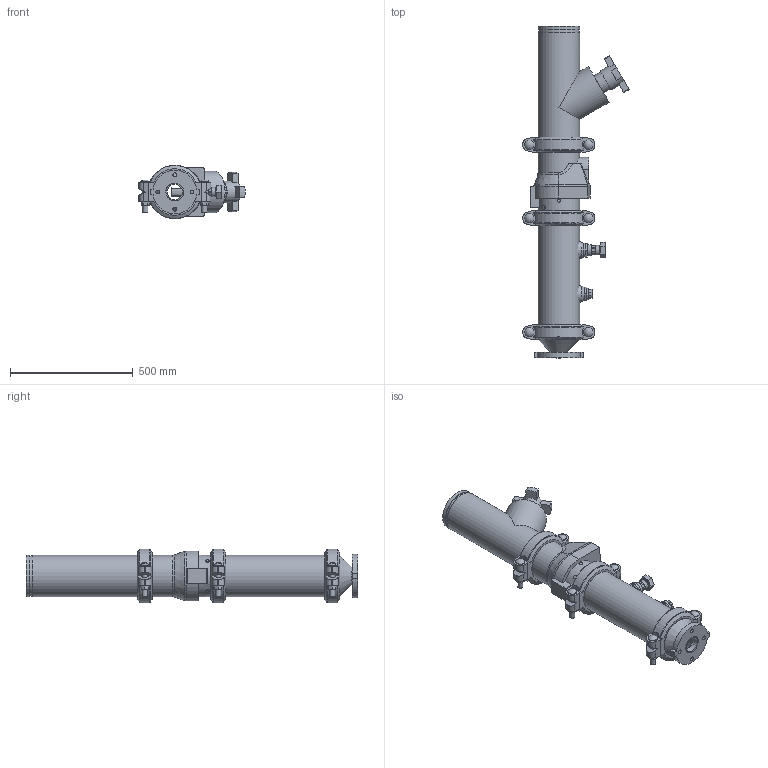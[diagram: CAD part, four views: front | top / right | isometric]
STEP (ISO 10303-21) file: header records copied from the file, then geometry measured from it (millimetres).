
FILE_DESCRIPTION(/* description */ ('VIC DVI PUMP DROP VERT S/383 (OGSxFLG) (S/924-1.25)','CAx-IF Rec.Pracs.---Representation and Presentation of Product Manufacturing Information (PMI)---4.0---2014-10-13'),/* implementation_level */ '2;1');
FILE_NAME(/* name */ 'C:\Users\Public\Documents\Victaulic.Temp\A849\Victaulic_IPS_Vertical DVI_CL 150_Series 383 (OGSxFLG)_924 (1.25)_06.0x02.5 (150x65).stp',/* time_stamp */ '2022-07-25T11:40:15+02:00',/* author */ ('Vjadhav'),/* organization */ ('Victaulic'),/* preprocessor_version */ 'ST-DEVELOPER v18',/* originating_system */ 'Autodesk Inventor 2020',/* authorisation */ '');
FILE_SCHEMA (('AP242_MANAGED_MODEL_BASED_3D_ENGINEERING_MIM_LF { 1 0 10303 442 1 1 4 }'));
Length unit declared in the file: inch
Products named in the file (9): 383_924 (1.25)-06.0x02.5; 741-02.5; 050-06.0x02.5; Pipe-06.0; 177N-06.0; 789-06.0; 779-06.0; 924-04.0x01.25; 923-04.0x0.75
Assembly tree (10 placements, depth 2):
  383_924 (1.25)-06.0x02.5
    741-02.5
    050-06.0x02.5
    177N-06.0  x3
    Pipe-06.0
    789-06.0
    779-06.0
    924-04.0x01.25
    923-04.0x0.75
Bounding box: 432.05 x 1349.5 x 219.2 mm (x, y, z)
Volume: 14062297.1 mm3; surface area: 2148559.8 mm2
Topology: 10 solids, 11 shells, 544 faces, 1433 edges, 963 vertices
Faces by surface type: plane 321, cylinder 178, cone 19, torus 18, sphere 6, bspline 2
Full cylindrical faces by diameter (mm): 13.716 x4, 15.875 x4, 21.209 x6, 21.336 x1, 26.67 x2, 37.694 x6, 38.608 x1, 42.164 x1, 45.974 x4, 48.514 x1, 55.626 x2, 62.713 x1, 69.088 x1, 73.025 x3, 79.375 x1, 88.9 x1, 154.051 x4, 155.575 x3, 163.957 x7, 168.275 x19
Entity records: 12374 total; most frequent: CARTESIAN_POINT 2530, DIRECTION 2023, ORIENTED_EDGE 1846, EDGE_CURVE 923, AXIS2_PLACEMENT_3D 768, VERTEX_POINT 627, LINE 487, VECTOR 487
